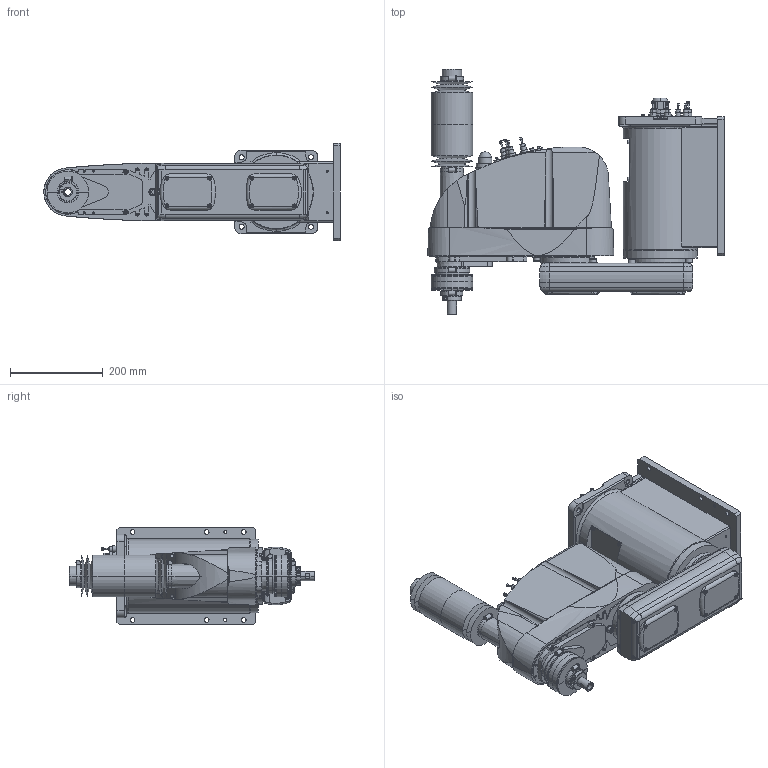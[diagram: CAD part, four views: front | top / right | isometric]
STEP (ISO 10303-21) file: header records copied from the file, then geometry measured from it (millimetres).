
FILE_DESCRIPTION( ( '' ), '1' );
FILE_NAME( '//expscmdclustefs.cadenas.external/client_exchange/iodir/jobs/output/wkb51533441_no0/STEP/G6_451DW_2_03.stp', '2012-11-23T08:47:41', ( '' ), ( '' ), ' ', ' ', ' ' );
FILE_SCHEMA( ( 'CONFIG_CONTROL_DESIGN' ) );
Length unit declared in the file: millimetre
Products named in the file (8): 1; 2; 3; 4; 5; 6; 7; 8
Bounding box: 640 x 529.5 x 210 mm (x, y, z)
Volume: 21644606.2 mm3; surface area: 1118859.6 mm2
Topology: 8 solids, 8 shells, 1869 faces, 4528 edges, 2878 vertices
Faces by surface type: plane 894, cylinder 654, cone 280, torus 40, sphere 1
Entity records: 58344 total; most frequent: CARTESIAN_POINT 13268, DIRECTION 9668, ORIENTED_EDGE 8996, EDGE_CURVE 4498, AXIS2_PLACEMENT_3D 3512, VERTEX_POINT 2878, LINE 2644, VECTOR 2644
